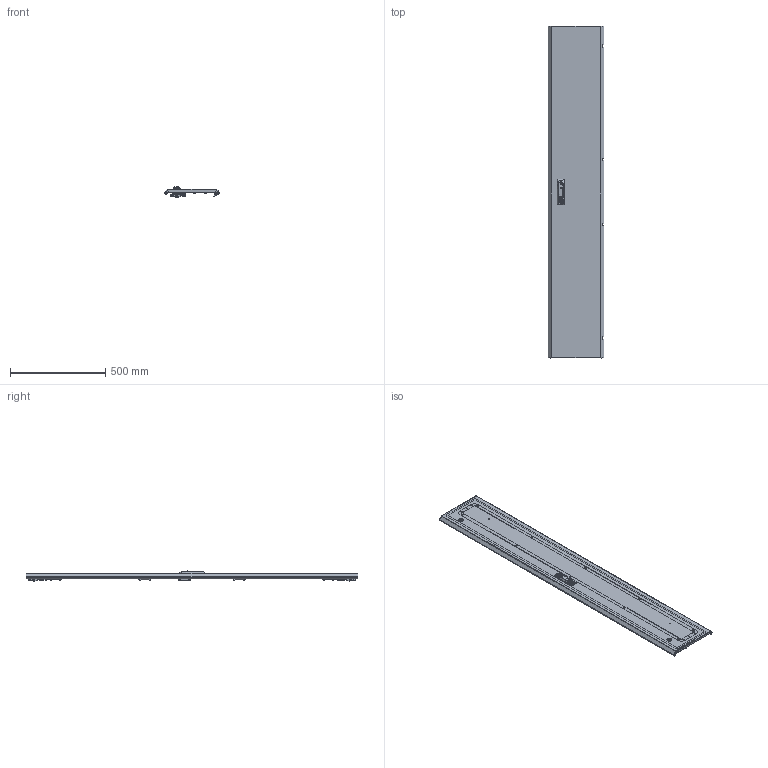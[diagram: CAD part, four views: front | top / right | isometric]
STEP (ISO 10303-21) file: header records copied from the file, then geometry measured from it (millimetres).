
FILE_DESCRIPTION (( 'STEP AP203' ), '1' );
FILE_NAME ('MA1.200.030618.30.00 AleSta-D18M300 Äâåðü ñïëîøíàÿ äëÿ øêàôîâ ALESTA ÂõØ 1800õ300.STEP', '2025-02-19T14:05:30', ( '' ), ( '' ), 'SwSTEP 2.0', 'SolidWorks 2021', '' );
FILE_SCHEMA (( 'CONFIG_CONTROL_DESIGN' ));
Length unit declared in the file: millimetre
Products named in the file (23): MA1.200.030618.30.00 AleSta-D18M300 Äâåðü ñïëîøíàÿ äëÿ øêàôîâ ALESTA ÂõØ 1800õ300; Íàâåñêà íà êîðïóñ ïîä êëåïêó; äåðæàòåëü_êðóãëîé_òÿãèRG002-RG1010-2-i-RG1010-3-.stp; Øïèëüêà Ì6õ12_˜¯¨«ìª  Œ6å16; Âèíò_ðåçüáîâûäàâëèâàþùèé_Ì5õ12_DIN 7500E_Œ5å12; òÿãà_lg001-2.STEP_‚ =1800; Âèíò ñàìîíàðåçàþùèé ñ ïîòàéíîé ãîëîâêîé Ì5x16 DIN 7500 M TORX, êëàññ ïðî÷íîñòè 8.8, îöèíêîâàííàÿ ñòàëü_Œ5å16; MA1.200.060620.31.04 需沐朦_惃％; êðåïëåíèå_êðóãëîé_òÿãè_RG1020-1.stp; Óïëîòíèòåëü ïàíåëè íèæíåé_   ‚=1800; MA1.200.060620.31.06 赶鎀鍧_100 洵; MA1.200.060620.31.05 Óãëîâîé óïîð äâåðíîé òÿãè; MS463-2-3(1); MA1.200.060620.31.02 Ðåéêà íà äâåðü âåðòèêàëüíàÿ Â = 2000_‚=1800; Ãàéêà ñàìîêîíòðÿùàÿñÿ ñ íåéëîíîâîé âñòàâêîé Ì6 DIN 985, êëàññ ïðî÷íîñòè 8, îöèíêîâàííàÿ ñòàëü_Œ6; MA1.200.060620.31.00 Äâåðü ñïëîøíàÿ äëÿ øêàôîâ ALESTA ÂõØ 2000õ600_1800å300; Îñü ïåòëè 4õ52_‚¨­â A.M4x0,5x40 ƒŽ‘’ 11644-75; 諘蜱齁罻 022 瀁錒瀔隮; MA1.200.060620.31.01 Ïîëîòíî äâåðè ñïëîøíîé 2000õ600_1800å300; Øïèëüêà Ì6õ12_˜¯¨«ìª  Œ6å20; Áîëò øåñòèãðàííûé Ì5õ12 DIN 933, êëàññ ïðî÷íîñòè 8.8, îöèíêîâàííàÿ ñòàëü; Ãàéêà ñàìîêîíòðÿùàÿñÿ ñ íåéëîíîâîé âñòàâêîé Ì6 DIN 985, êëàññ ïðî÷íîñòè 8, îöèíêîâàííàÿ ñòàëü_Œ5; MA1.200.060620.31.03 Ðåéêà íà äâåðü ãîðèçîíòàëüíàÿ Ø = 600_˜=300
Assembly tree (76 placements, depth 3):
  MA1.200.030618.30.00 AleSta-D18M300 Äâåðü ñïëîøíàÿ äëÿ øêàôîâ ALESTA ÂõØ 1800õ300
    MA1.200.060620.31.00 Äâåðü ñïëîøíàÿ äëÿ øêàôîâ ALESTA ÂõØ 2000õ600_1800å300
      MA1.200.060620.31.01 Ïîëîòíî äâåðè ñïëîøíîé 2000õ600_1800å300
      Óïëîòíèòåëü ïàíåëè íèæíåé_   ‚=1800
      Øïèëüêà Ì6õ12_˜¯¨«ìª  Œ6å20  x12
      Øïèëüêà Ì6õ12_˜¯¨«ìª  Œ6å16  x4
    MA1.200.060620.31.03 Ðåéêà íà äâåðü ãîðèçîíòàëüíàÿ Ø = 600_˜=300  x2
    諘蜱齁罻 022 瀁錒瀔隮  x4
    MA1.200.060620.31.02 Ðåéêà íà äâåðü âåðòèêàëüíàÿ Â = 2000_‚=1800  x2
    äåðæàòåëü_êðóãëîé_òÿãèRG002-RG1010-2-i-RG1010-3-.stp  x2
    òÿãà_lg001-2.STEP_‚ =1800  x2
    êðåïëåíèå_êðóãëîé_òÿãè_RG1020-1.stp  x2
    MS463-2-3(1)
    Ãàéêà ñàìîêîíòðÿùàÿñÿ ñ íåéëîíîâîé âñòàâêîé Ì6 DIN 985, êëàññ ïðî÷íîñòè 8, îöèíêîâàííàÿ ñòàëü_Œ6  x12
    Ãàéêà ñàìîêîíòðÿùàÿñÿ ñ íåéëîíîâîé âñòàâêîé Ì6 DIN 985, êëàññ ïðî÷íîñòè 8, îöèíêîâàííàÿ ñòàëü_Œ5  x2
    Áîëò øåñòèãðàííûé Ì5õ12 DIN 933, êëàññ ïðî÷íîñòè 8.8, îöèíêîâàííàÿ ñòàëü  x2
    MA1.200.060620.31.05 Óãëîâîé óïîð äâåðíîé òÿãè  x2
    Âèíò_ðåçüáîâûäàâëèâàþùèé_Ì5õ12_DIN 7500E_Œ5å12  x6
    Íàâåñêà íà êîðïóñ ïîä êëåïêó  x4
    Îñü ïåòëè 4õ52_‚¨­â A.M4x0,5x40 ƒŽ‘’ 11644-75  x4
    Âèíò ñàìîíàðåçàþùèé ñ ïîòàéíîé ãîëîâêîé Ì5x16 DIN 7500 M TORX, êëàññ ïðî÷íîñòè 8.8, îöèíêîâàííàÿ ñòàëü_Œ5å16  x8
    MA1.200.060620.31.04 需沐朦_惃％
    MA1.200.060620.31.06 赶鎀鍧_100 洵
Bounding box: 291.81 x 1745 x 52.74 mm (x, y, z)
Volume: 1565244.5 mm3; surface area: 1817795.5 mm2
Topology: 110 solids, 124 shells, 5769 faces, 14320 edges, 8756 vertices
Faces by surface type: plane 2369, cylinder 2239, bspline 613, cone 253, torus 197, sphere 98
Entity records: 137530 total; most frequent: CARTESIAN_POINT 58528, ORIENTED_EDGE 16026, DIRECTION 14977, EDGE_CURVE 8030, AXIS2_PLACEMENT_3D 5327, VERTEX_POINT 5012, VECTOR 4323, LINE 4323
